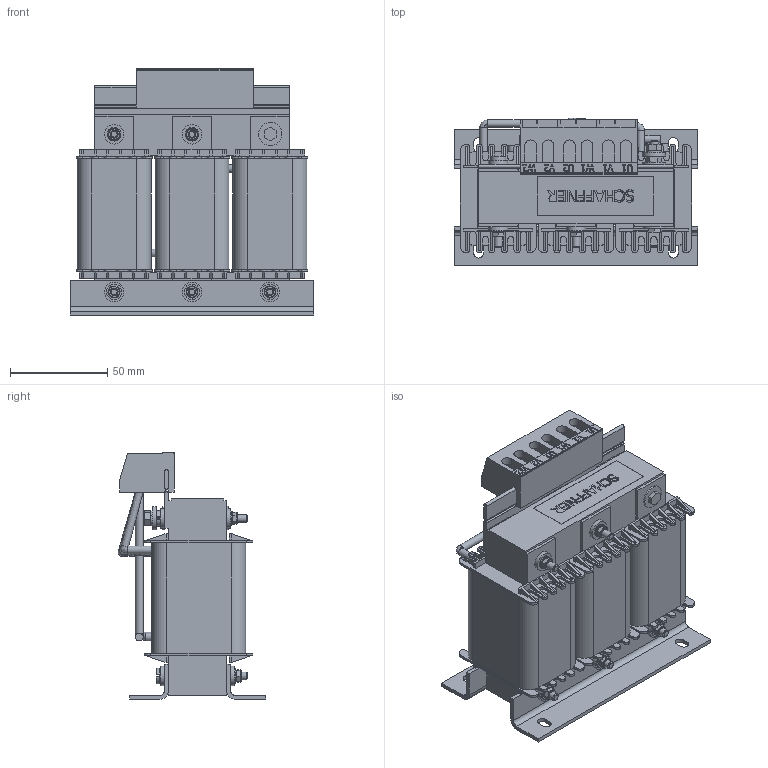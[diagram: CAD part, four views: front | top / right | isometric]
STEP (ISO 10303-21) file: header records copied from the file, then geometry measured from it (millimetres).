
FILE_DESCRIPTION((''),'2;1');
FILE_NAME('K:\Development\CAD-Files_RWK212_RWK305_FN504x\RWK305\RWK305-17-KL3.stp','2014-02-25T15:46:54',('Samuel.Meier'),(''),'Autodesk Inventor 2013','Autodesk Inventor 2013','');
FILE_SCHEMA(('CONFIG_CONTROL_DESIGN'));
Length unit declared in the file: millimetre
Products named in the file (1): RWK305-17-KL
Bounding box: 125 x 75.78 x 126.67 mm (x, y, z)
Volume: 449144.9 mm3; surface area: 149330.9 mm2
Topology: 1 solids, 1 shells, 1505 faces, 4051 edges, 2578 vertices
Faces by surface type: plane 1107, cylinder 252, bspline 104, torus 26, cone 16
Full cylindrical faces by diameter (mm): 4 x17, 7 x4, 8 x8, 10 x10, 12 x3
Entity records: 48608 total; most frequent: CARTESIAN_POINT 10255, ORIENTED_EDGE 7924, DIRECTION 7131, EDGE_CURVE 3962, VECTOR 3025, LINE 3025, VERTEX_POINT 2555, AXIS2_PLACEMENT_3D 2053
